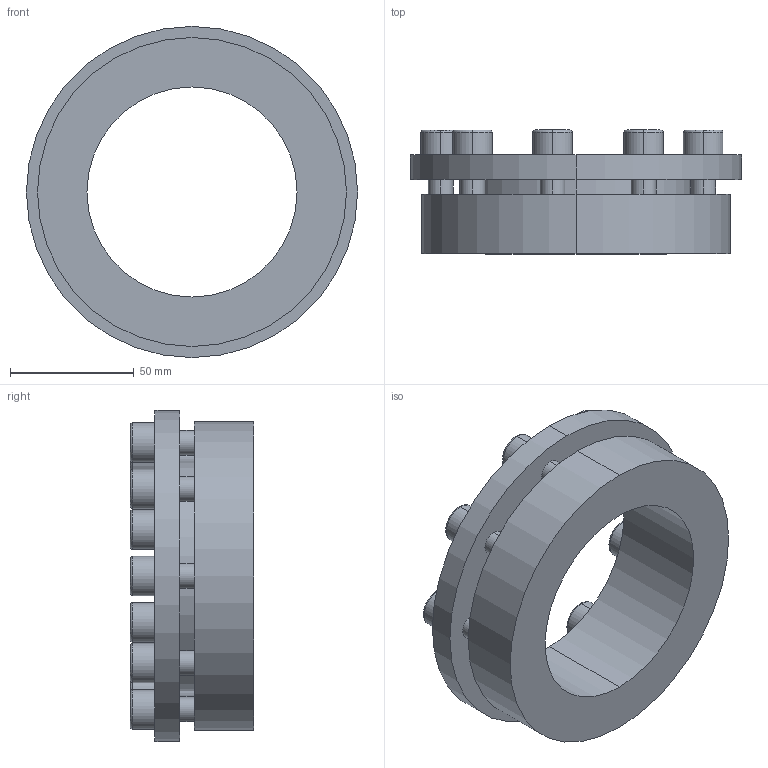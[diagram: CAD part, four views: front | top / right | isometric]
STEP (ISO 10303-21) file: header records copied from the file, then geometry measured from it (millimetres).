
FILE_DESCRIPTION (( 'STEP AP203' ), '1' );
FILE_NAME ('PL-H6 85-125.STEP', '2021-10-23T01:38:08', ( '' ), ( '' ), 'SwSTEP 2.0', 'SolidWorks 2018', '' );
FILE_SCHEMA (( 'CONFIG_CONTROL_DESIGN' ));
Length unit declared in the file: millimetre
Products named in the file (1): PL-H6 85-125
Bounding box: 134 x 50 x 134 mm (x, y, z)
Volume: 269076 mm3; surface area: 59738.6 mm2
Topology: 1 solids, 1 shells, 138 faces, 330 edges, 214 vertices
Faces by surface type: plane 76, cylinder 44, torus 18
Entity records: 4131 total; most frequent: DIRECTION 732, CARTESIAN_POINT 683, ORIENTED_EDGE 660, EDGE_CURVE 330, AXIS2_PLACEMENT_3D 263, VERTEX_POINT 214, VECTOR 206, LINE 206
